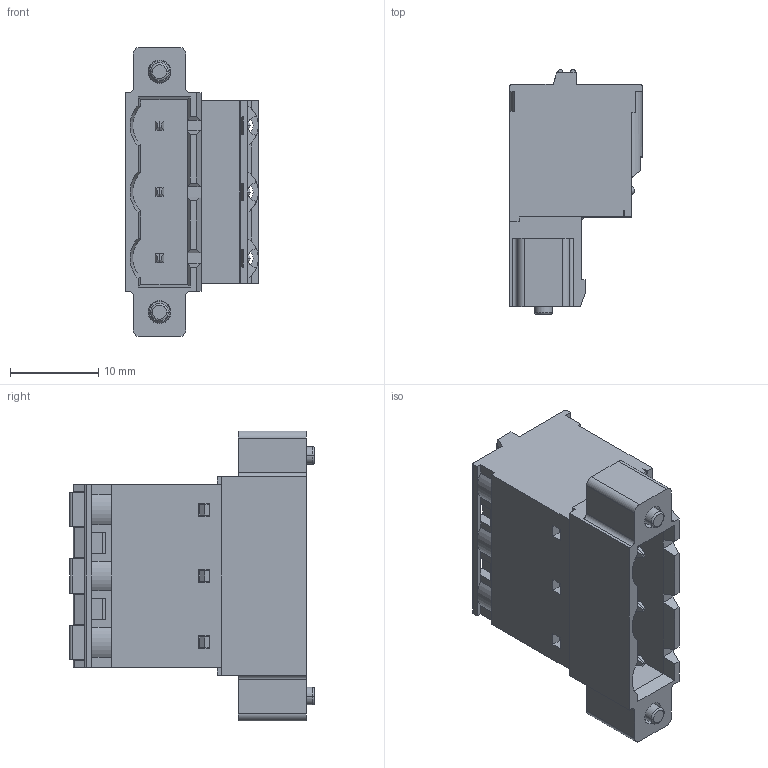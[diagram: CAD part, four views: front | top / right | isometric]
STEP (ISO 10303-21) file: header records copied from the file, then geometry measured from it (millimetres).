
FILE_DESCRIPTION((''),'2;1');
FILE_NAME('3PIN_SW0001','2019-05-29T',('zhenbing.lai'),(''),'CREO PARAMETRIC BY PTC INC, 2016260','CREO PARAMETRIC BY PTC INC, 2016260','');
FILE_SCHEMA(('CONFIG_CONTROL_DESIGN'));
Length unit declared in the file: millimetre
Products named in the file (1): 3PIN_SW0001
Bounding box: 15.02 x 27.7 x 32.8 mm (x, y, z)
Volume: 5633.9 mm3; surface area: 3967.2 mm2
Topology: 3 solids, 7 shells, 526 faces, 1445 edges, 941 vertices
Faces by surface type: plane 397, cylinder 78, cone 15, bspline 15, torus 12, sphere 9
Entity records: 22940 total; most frequent: CARTESIAN_POINT 9729, ORIENTED_EDGE 2864, DIRECTION 2528, EDGE_CURVE 1432, VECTOR 1020, LINE 1020, VERTEX_POINT 941, AXIS2_PLACEMENT_3D 754
